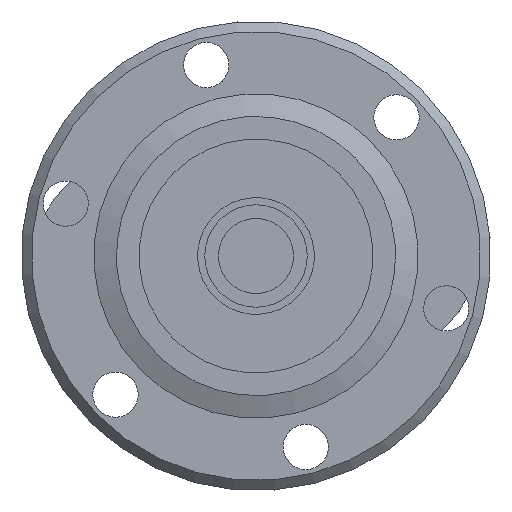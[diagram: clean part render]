
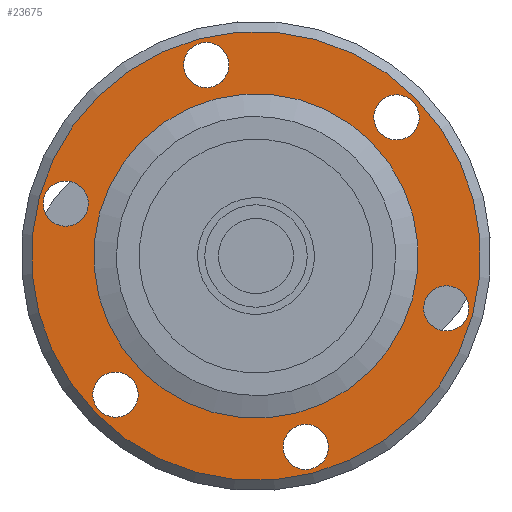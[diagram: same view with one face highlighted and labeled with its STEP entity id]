
A CAD part, front view. The second image highlights one B-rep face of the part: STEP entity #23675.
In plain terms, the highlighted planar face has unit normal (0, -1, 0).
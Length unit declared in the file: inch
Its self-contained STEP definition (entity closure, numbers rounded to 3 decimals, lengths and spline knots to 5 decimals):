
#481 = CARTESIAN_POINT ( 'NONE',  ( 1.26785, -2.45842, -0.34898 ) ) ;
#633 = DIRECTION ( 'NONE',  ( 0., 1., 0. ) ) ;
#1746 = VERTEX_POINT ( 'NONE', #9388 ) ;
#1957 = CARTESIAN_POINT ( 'NONE',  ( -1.11455, -2.45842, 0.30678 ) ) ;
#2040 = EDGE_LOOP ( 'NONE', ( #37921 ) ) ;
#2986 = EDGE_CURVE ( 'NONE', #24017, #24017, #43316, .T. ) ;
#3819 = CARTESIAN_POINT ( 'NONE',  ( 0.3649, -2.45842, 1.3257 ) ) ;
#3943 = AXIS2_PLACEMENT_3D ( 'NONE', #4843, #8633, #38754 ) ;
#4105 = DIRECTION ( 'NONE',  ( 0.964, 0., -0.265 ) ) ;
#4843 = CARTESIAN_POINT ( 'NONE',  ( -0.82295, -2.45842, -0.81184 ) ) ;
#6247 = ORIENTED_EDGE ( 'NONE', *, *, #7685, .T. ) ;
#6963 = DIRECTION ( 'NONE',  ( 0., -1., 0. ) ) ;
#7324 = DIRECTION ( 'NONE',  ( 0., -1., 0. ) ) ;
#7685 = EDGE_CURVE ( 'NONE', #38021, #38021, #20337, .T. ) ;
#7743 = AXIS2_PLACEMENT_3D ( 'NONE', #34875, #17362, #37381 ) ;
#7810 = AXIS2_PLACEMENT_3D ( 'NONE', #14318, #6963, #41330 ) ;
#7849 = CIRCLE ( 'NONE', #7810, 0.1325 ) ;
#8633 = DIRECTION ( 'NONE',  ( 0., -1., 0. ) ) ;
#9158 = CARTESIAN_POINT ( 'NONE',  ( -0.41934, -2.45842, 1.15378 ) ) ;
#9388 = CARTESIAN_POINT ( 'NONE',  ( 0.16385, -2.45842, -1.08346 ) ) ;
#10744 = FACE_BOUND ( 'NONE', #19795, .T. ) ;
#11578 = EDGE_LOOP ( 'NONE', ( #36735 ) ) ;
#11689 = AXIS2_PLACEMENT_3D ( 'NONE', #1957, #22156, #36775 ) ;
#11863 = DIRECTION ( 'NONE',  ( 0.964, 0., -0.265 ) ) ;
#12384 = CIRCLE ( 'NONE', #11689, 0.1325 ) ;
#13283 = EDGE_LOOP ( 'NONE', ( #40607 ) ) ;
#13955 = VERTEX_POINT ( 'NONE', #35073 ) ;
#14318 = CARTESIAN_POINT ( 'NONE',  ( 0.82295, -2.45842, 0.81184 ) ) ;
#14341 = CARTESIAN_POINT ( 'NONE',  ( 0., -2.45842, 0. ) ) ;
#14970 = ORIENTED_EDGE ( 'NONE', *, *, #34564, .F. ) ;
#15430 = ORIENTED_EDGE ( 'NONE', *, *, #41311, .F. ) ;
#15636 = VERTEX_POINT ( 'NONE', #9158 ) ;
#16723 = AXIS2_PLACEMENT_3D ( 'NONE', #28256, #24895, #4105 ) ;
#17117 = VERTEX_POINT ( 'NONE', #22813 ) ;
#17362 = DIRECTION ( 'NONE',  ( 0., -1., 0. ) ) ;
#17475 = FACE_OUTER_BOUND ( 'NONE', #2040, .T. ) ;
#17688 = FACE_BOUND ( 'NONE', #42222, .T. ) ;
#18802 = VERTEX_POINT ( 'NONE', #39969 ) ;
#19795 = EDGE_LOOP ( 'NONE', ( #14970 ) ) ;
#19822 = AXIS2_PLACEMENT_3D ( 'NONE', #27020, #7324, #38090 ) ;
#20337 = CIRCLE ( 'NONE', #16723, 0.95 ) ;
#20605 = EDGE_CURVE ( 'NONE', #13955, #13955, #37142, .T. ) ;
#21806 = CIRCLE ( 'NONE', #3943, 0.1325 ) ;
#21958 = DIRECTION ( 'NONE',  ( 0., -1., 0. ) ) ;
#22156 = DIRECTION ( 'NONE',  ( 0., -1., 0. ) ) ;
#22813 = CARTESIAN_POINT ( 'NONE',  ( -0.9507, -2.45842, -0.77668 ) ) ;
#23675 = ADVANCED_FACE ( 'NONE', ( #17475, #37277, #41543, #37944, #34340, #17688, #10744, #23727 ), #41099, .F. ) ;
#23727 = FACE_BOUND ( 'NONE', #24550, .T. ) ;
#24017 = VERTEX_POINT ( 'NONE', #481 ) ;
#24380 = CARTESIAN_POINT ( 'NONE',  ( 1.11455, -2.45842, -0.30678 ) ) ;
#24411 = DIRECTION ( 'NONE',  ( 0.964, 0., -0.265 ) ) ;
#24550 = EDGE_LOOP ( 'NONE', ( #15430 ) ) ;
#24895 = DIRECTION ( 'NONE',  ( 0., 1., 0. ) ) ;
#24896 = CARTESIAN_POINT ( 'NONE',  ( 0.91594, -2.45842, -0.25211 ) ) ;
#25303 = AXIS2_PLACEMENT_3D ( 'NONE', #14341, #21958, #11863 ) ;
#25659 = EDGE_CURVE ( 'NONE', #17117, #17117, #21806, .T. ) ;
#25884 = AXIS2_PLACEMENT_3D ( 'NONE', #3819, #633, #24411 ) ;
#26566 = ORIENTED_EDGE ( 'NONE', *, *, #20605, .F. ) ;
#27020 = CARTESIAN_POINT ( 'NONE',  ( 0.2916, -2.45842, -1.11862 ) ) ;
#27026 = CIRCLE ( 'NONE', #7743, 0.1325 ) ;
#28256 = CARTESIAN_POINT ( 'NONE',  ( 0., -2.45842, 0. ) ) ;
#29554 = VERTEX_POINT ( 'NONE', #43324 ) ;
#30477 = DIRECTION ( 'NONE',  ( -0.964, 0., 0.265 ) ) ;
#31534 = EDGE_LOOP ( 'NONE', ( #43136 ) ) ;
#32820 = AXIS2_PLACEMENT_3D ( 'NONE', #24380, #34747, #30477 ) ;
#34340 = FACE_BOUND ( 'NONE', #13283, .T. ) ;
#34564 = EDGE_CURVE ( 'NONE', #29554, #29554, #12384, .T. ) ;
#34747 = DIRECTION ( 'NONE',  ( 0., -1., 0. ) ) ;
#34875 = CARTESIAN_POINT ( 'NONE',  ( -0.2916, -2.45842, 1.11862 ) ) ;
#35073 = CARTESIAN_POINT ( 'NONE',  ( 0.9868, -2.45842, -0.27162 ) ) ;
#36735 = ORIENTED_EDGE ( 'NONE', *, *, #25659, .F. ) ;
#36775 = DIRECTION ( 'NONE',  ( -0.964, 0., 0.265 ) ) ;
#37142 = CIRCLE ( 'NONE', #32820, 0.1325 ) ;
#37277 = FACE_BOUND ( 'NONE', #42909, .T. ) ;
#37381 = DIRECTION ( 'NONE',  ( -0.964, 0., 0.265 ) ) ;
#37921 = ORIENTED_EDGE ( 'NONE', *, *, #2986, .T. ) ;
#37944 = FACE_BOUND ( 'NONE', #31534, .T. ) ;
#38021 = VERTEX_POINT ( 'NONE', #24896 ) ;
#38090 = DIRECTION ( 'NONE',  ( -0.964, 0., 0.265 ) ) ;
#38754 = DIRECTION ( 'NONE',  ( -0.964, 0., 0.265 ) ) ;
#39582 = EDGE_CURVE ( 'NONE', #18802, #18802, #7849, .T. ) ;
#39969 = CARTESIAN_POINT ( 'NONE',  ( 0.69521, -2.45842, 0.847 ) ) ;
#40607 = ORIENTED_EDGE ( 'NONE', *, *, #39582, .F. ) ;
#41099 = PLANE ( 'NONE',  #25884 ) ;
#41311 = EDGE_CURVE ( 'NONE', #1746, #1746, #42805, .T. ) ;
#41330 = DIRECTION ( 'NONE',  ( -0.964, 0., 0.265 ) ) ;
#41543 = FACE_BOUND ( 'NONE', #11578, .T. ) ;
#42222 = EDGE_LOOP ( 'NONE', ( #6247 ) ) ;
#42354 = EDGE_CURVE ( 'NONE', #15636, #15636, #27026, .T. ) ;
#42805 = CIRCLE ( 'NONE', #19822, 0.1325 ) ;
#42909 = EDGE_LOOP ( 'NONE', ( #26566 ) ) ;
#43136 = ORIENTED_EDGE ( 'NONE', *, *, #42354, .F. ) ;
#43316 = CIRCLE ( 'NONE', #25303, 1.315 ) ;
#43324 = CARTESIAN_POINT ( 'NONE',  ( -1.2423, -2.45842, 0.34194 ) ) ;
